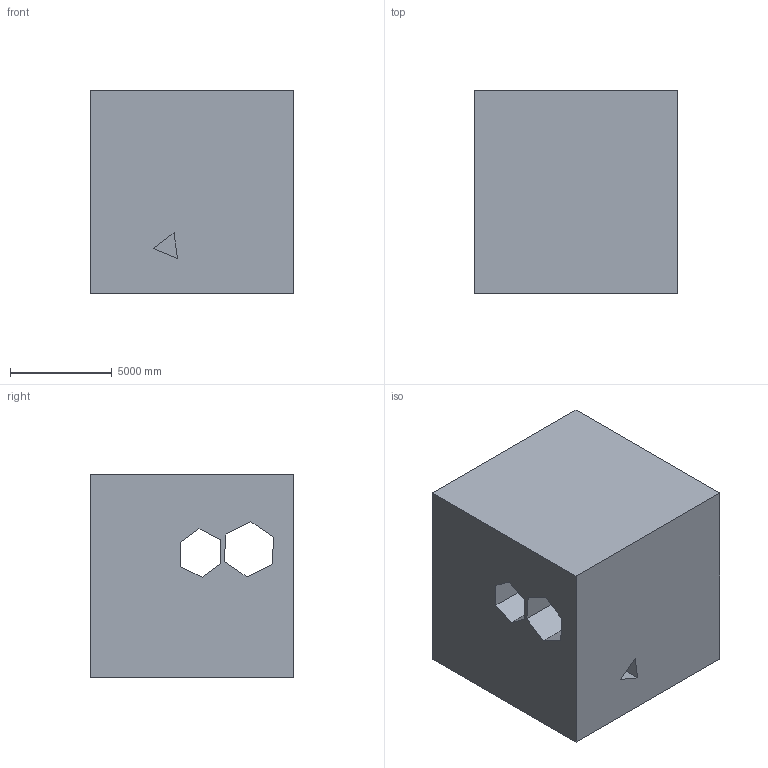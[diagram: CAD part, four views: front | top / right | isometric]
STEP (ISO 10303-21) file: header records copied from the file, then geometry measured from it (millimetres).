
FILE_DESCRIPTION (( 'STEP AP203' ), '1' );
FILE_NAME ('1548.STEP', '2022-08-18T15:43:28', ( 'user' ), ( '' ), 'SwSTEP 2.0', 'SolidWorks 2021', '' );
FILE_SCHEMA (( 'CONFIG_CONTROL_DESIGN' ));
Length unit declared in the file: centimetre
Products named in the file (1): 1548
Bounding box: 10000 x 10000 x 10000 mm (x, y, z)
Volume: 897631267341 mm3; surface area: 771349907.3 mm2
Topology: 1 solids, 1 shells, 35 faces, 93 edges, 62 vertices
Faces by surface type: plane 35
Entity records: 1152 total; most frequent: CARTESIAN_POINT 191, ORIENTED_EDGE 186, DIRECTION 165, LINE 93, EDGE_CURVE 93, VECTOR 93, VERTEX_POINT 62, EDGE_LOOP 41
